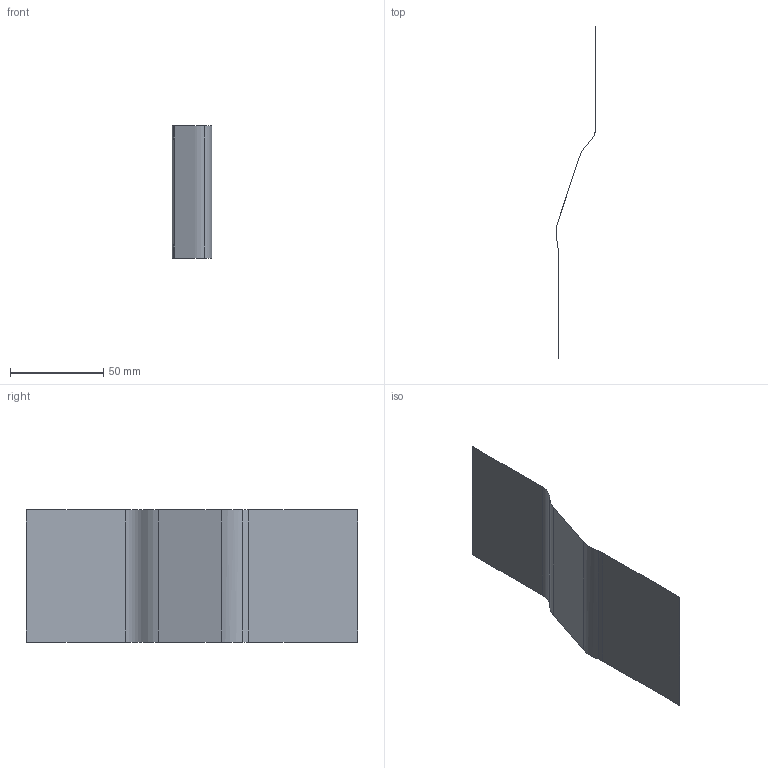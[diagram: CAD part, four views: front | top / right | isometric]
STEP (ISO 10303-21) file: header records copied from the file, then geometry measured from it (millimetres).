
FILE_DESCRIPTION( ( 'STEP Version 203' ), '1' );
FILE_NAME( 'D:/malberts/CCX/CCC/CCC_2012/ANSYS_ACP_Training_Material_V145/WORKSHOP_SOLID_MODELING_PLY_DROP_OFF/SNAP_TO_GEOMETRY.stp', '11/27/12 02:22:06', ( 'malberts' ), ( ' ' ), 'PSStep 14.0', 'DesignModeler STEP Output', ' ' );
FILE_SCHEMA( ( 'AUTOMOTIVE_DESIGN { 1 0 10303 214 1 1 1 1 }' ) );
Length unit declared in the file: metre
Products named in the file (1): 1
Bounding box: 21.37 x 177.8 x 71.12 mm (x, y, z)
Surface area: 12977.5 mm2 (no closed solid volume)
Topology: 0 solids, 7 shells, 7 faces, 60 edges, 60 vertices
Faces by surface type: cylinder 4, plane 3
Entity records: 571 total; most frequent: CARTESIAN_POINT 260, ORIENTED_EDGE 60, EDGE_CURVE 60, VERTEX_POINT 60, B_SPLINE_CURVE_WITH_KNOTS 60, DIRECTION 16, AXIS2_PLACEMENT_3D 8, FACE_SURFACE 7
